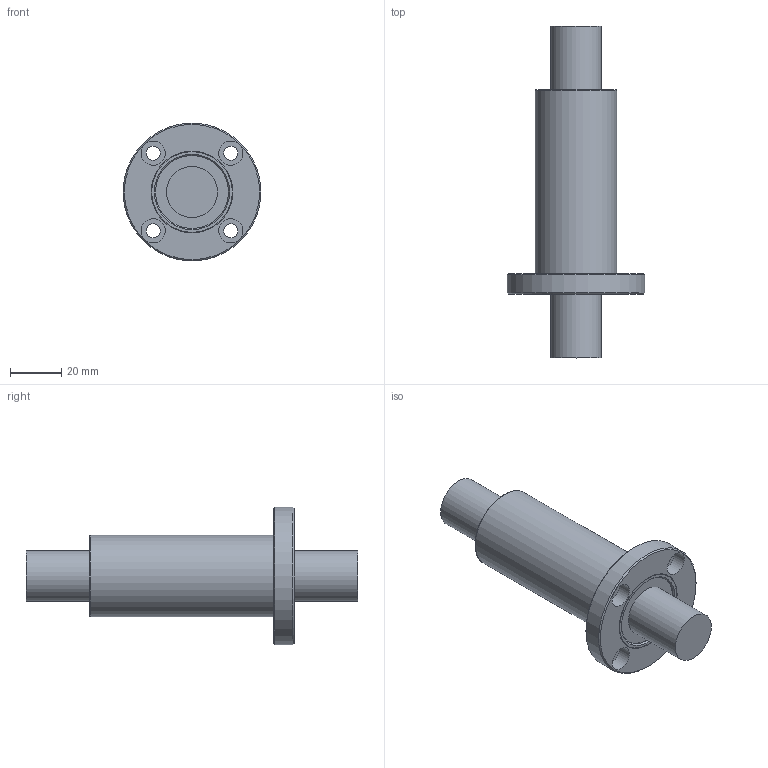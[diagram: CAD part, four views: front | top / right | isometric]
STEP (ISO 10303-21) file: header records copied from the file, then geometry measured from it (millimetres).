
FILE_DESCRIPTION((''),'2;1');
FILE_NAME('D:\STEP\EUROPE\BLANK\LMEF L\LMEF20L.stp','2013-02-05T17:58:40',('user2'),(''),'Autodesk Inventor 2012','Autodesk Inventor 2012','');
FILE_SCHEMA(('AUTOMOTIVE_DESIGN { 1 0 10303 214 1 1 1 1 }'));
Length unit declared in the file: millimetre
Products named in the file (1): LMEF20L
Bounding box: 54 x 130 x 54 mm (x, y, z)
Volume: 89508.1 mm3; surface area: 17097.1 mm2
Topology: 1 solids, 1 shells, 33 faces, 59 edges, 38 vertices
Faces by surface type: cylinder 15, plane 12, cone 4, torus 2
Full cylindrical faces by diameter (mm): 5.5 x4, 9.5 x4, 20 x2, 28.5 x2, 32 x2, 54 x1
Entity records: 736 total; most frequent: DIRECTION 140, CARTESIAN_POINT 106, ORIENTED_EDGE 72, EDGE_LOOP 72, AXIS2_PLACEMENT_3D 70, FACE_BOUND 39, VERTEX_POINT 36, CIRCLE 36
